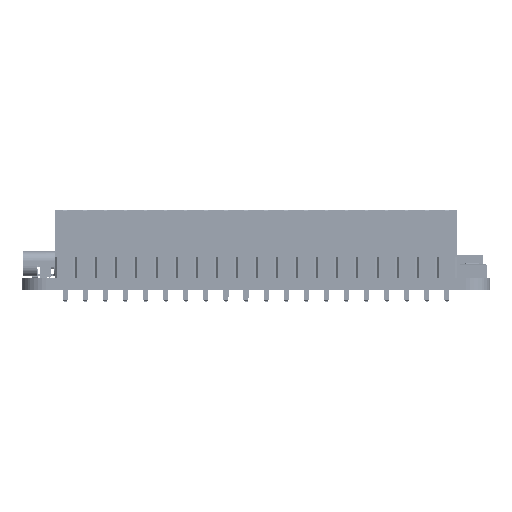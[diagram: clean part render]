
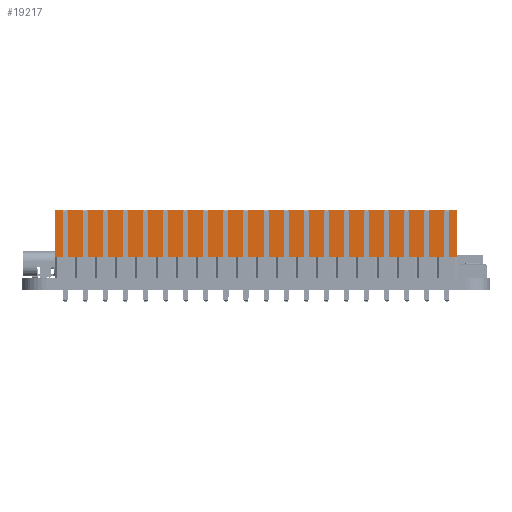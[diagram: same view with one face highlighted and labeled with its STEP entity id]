
A CAD part, left-side view. The second image highlights one B-rep face of the part: STEP entity #19217.
In plain terms, the highlighted planar face has unit normal (-1, 0, 0).
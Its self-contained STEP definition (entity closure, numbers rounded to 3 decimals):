
#16994 = VERTEX_POINT('',#16995);
#16995 = CARTESIAN_POINT('',(-1.27,-49.53,0.));
#17003 = EDGE_CURVE('',#16994,#17004,#17006,.T.);
#17004 = VERTEX_POINT('',#17005);
#17005 = CARTESIAN_POINT('',(-1.27,-49.53,8.5));
#17006 = LINE('',#17007,#17008);
#17007 = CARTESIAN_POINT('',(-1.27,-49.53,0.));
#17008 = VECTOR('',#17009,1.);
#17009 = DIRECTION('',(0.,0.,1.));
#17066 = VERTEX_POINT('',#17067);
#17067 = CARTESIAN_POINT('',(-1.27,1.27,8.5));
#17073 = EDGE_CURVE('',#17074,#17066,#17076,.T.);
#17074 = VERTEX_POINT('',#17075);
#17075 = CARTESIAN_POINT('',(-1.27,1.27,0.));
#17076 = LINE('',#17077,#17078);
#17077 = CARTESIAN_POINT('',(-1.27,1.27,0.));
#17078 = VECTOR('',#17079,1.);
#17079 = DIRECTION('',(0.,0.,1.));
#17138 = EDGE_CURVE('',#17066,#17004,#17139,.T.);
#17139 = LINE('',#17140,#17141);
#17140 = CARTESIAN_POINT('',(-1.27,1.27,8.5));
#17141 = VECTOR('',#17142,1.);
#17142 = DIRECTION('',(0.,-1.,0.));
#17841 = EDGE_CURVE('',#17074,#16994,#17842,.T.);
#17842 = LINE('',#17843,#17844);
#17843 = CARTESIAN_POINT('',(-1.27,1.27,0.));
#17844 = VECTOR('',#17845,1.);
#17845 = DIRECTION('',(0.,-1.,0.));
#19217 = ADVANCED_FACE('',(#19218),#19224,.F.);
#19218 = FACE_BOUND('',#19219,.F.);
#19219 = EDGE_LOOP('',(#19220,#19221,#19222,#19223));
#19220 = ORIENTED_EDGE('',*,*,#17073,.T.);
#19221 = ORIENTED_EDGE('',*,*,#17138,.T.);
#19222 = ORIENTED_EDGE('',*,*,#17003,.F.);
#19223 = ORIENTED_EDGE('',*,*,#17841,.F.);
#19224 = PLANE('',#19225);
#19225 = AXIS2_PLACEMENT_3D('',#19226,#19227,#19228);
#19226 = CARTESIAN_POINT('',(-1.27,1.27,0.));
#19227 = DIRECTION('',(1.,0.,0.));
#19228 = DIRECTION('',(0.,-1.,0.));
